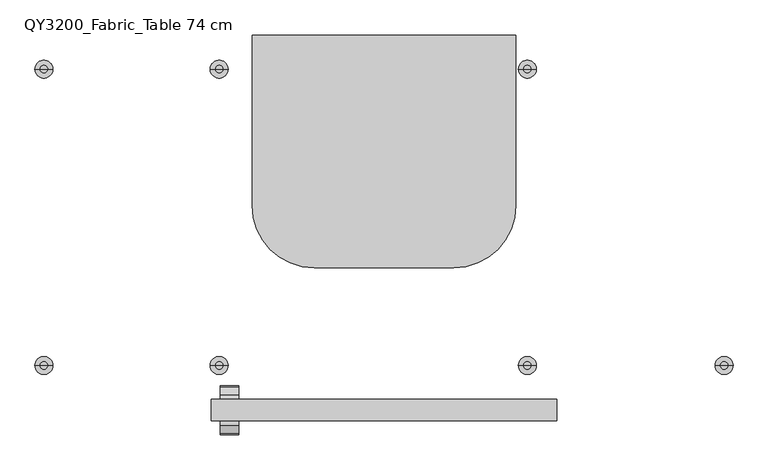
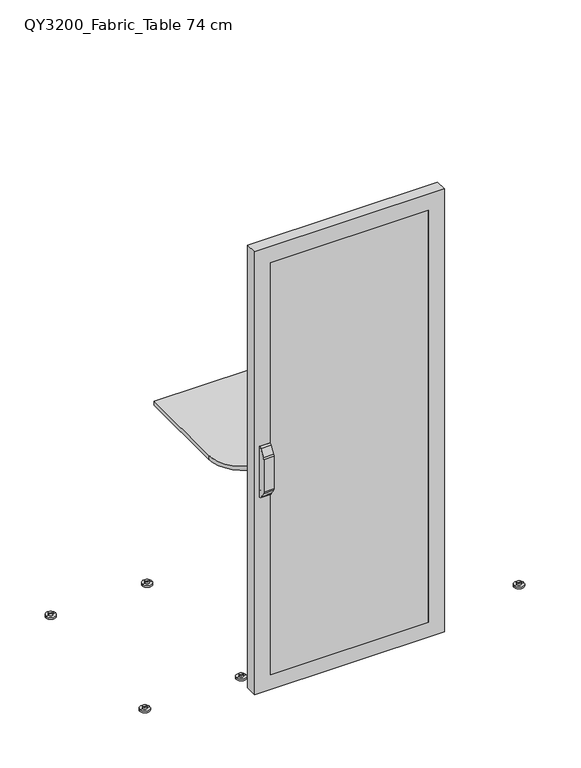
"""IFC4 building model written with IfcOpenShell, lengths in millimetres: furniture geometry, Qyos_200 : QY3200_Fabric_Table 74 cm."""

from ifc_helpers import new_model, si_unit, point, frame, frame_2d, origin, origin_with_axes, place, context, project, spatial, polyline, circle_curve, ellipse_curve, trimmed, segment, composite_curve, outline, extrude, source, transform, mapped, element, save
from ifc_brep_helpers import plane_surface, cylinder_surface, revolved_surface, advanced_brep


def qy3200_fabric_table_74_cm_fe0183bf(model_context):
    return source(origin(), model_context, "Body", "SolidModel", [
        advanced_brep(
        [(-374.0364764, -525.6314016, 980.9779398), (-374.0364764, -525.6314016, 985.9647191), (-374.0364764, -537.9469969, 991.7354618), (-374.0364764, -555.0438473, 1019.0961419), (-374.0364764, -557.6320377, 1028.7554001), (-374.0364764, -557.6320377, 1173.7554001), (-374.0364764, -553.2020658, 1196.5456299), (-374.0364764, -536.4262787, 1221.4167571), (-374.0364764, -525.6314016, 1224.0702851), (-374.0364764, -525.6314016, 1230.9669096), (-374.0364764, -537.162848, 1226.3079029), (-374.0364764, -557.7819627, 1194.5572505), (-374.0364764, -560.5, 1186.1919919), (-374.0364764, -560.5, 1025.2), (-374.0364764, -557.5610872, 1017.1254034), (-374.0364764, -537.1968679, 985.7672556), (-421.9843341, -525.6314016, 1230.9669096), (-421.9843341, -525.6314016, 980.9779398), (-421.9843341, -537.1968679, 985.7672556), (-421.9843341, -557.5610872, 1017.1254034), (-421.9843341, -560.5, 1025.2), (-421.9843341, -560.5, 1186.1919919), (-421.9843341, -557.7819627, 1194.5572505), (-421.9843341, -537.162848, 1226.3079029), (-419.3150587, -525.6314016, 1224.0702851), (-419.3150587, -525.6314016, 985.9647191), (-419.3150587, -537.9469969, 991.7354618), (-419.3150587, -536.4262787, 1221.4167571), (-419.3150587, -553.2020658, 1196.5456299), (-419.3150587, -557.6320377, 1173.7554001), (-419.3150587, -557.6320377, 1028.7554001), (-419.3150587, -555.0438473, 1019.0961419)],
        [
            (0, 1),
            (1, 2, circle_curve(frame((-374.0364764, -525.4805644, 1002.3136249), z_axis=(-1.0, 0.0, 0.0), x_axis=(0.0, -1.0, 0.0)), 16.3496016)),
            (2, 3, circle_curve(frame((-374.0364764, 1120.4570487, 2047.0433119), z_axis=(-1.0, 0.0, 0.0), x_axis=(0.0, -1.0, 0.0)), 1965.7005461)),
            (3, 4, circle_curve(frame((-374.0364764, -540.0644692, 1028.286235), z_axis=(-1.0, 0.0, 0.0), x_axis=(0.0, -1.0, 0.0)), 17.5738323)),
            (4, 5),
            (5, 6, circle_curve(frame((-374.0364764, -496.7942676, 1173.7554001), z_axis=(-1.0, 0.0, 0.0), x_axis=(0.0, -1.0, 0.0)), 60.8377701)),
            (6, 7, circle_curve(frame((-374.0364764, -812.3576761, 1389.4415655), z_axis=(1.0, 0.0, 0.0), x_axis=(0.0, -1.0, 0.0)), 323.0641922)),
            (7, 8, circle_curve(frame((-374.0364764, -525.6314016, 1200.7860796), z_axis=(-1.0, 0.0, 0.0), x_axis=(0.0, -1.0, 0.0)), 23.2842055)),
            (8, 9),
            (9, 10, circle_curve(frame((-374.0364764, -527.4087289, 1218.7657801), z_axis=(1.0, 0.0, 0.0), x_axis=(0.0, -1.0, 0.0)), 12.3299009)),
            (10, 11, circle_curve(frame((-374.0364764, 71.0762231, 808.7424006), z_axis=(1.0, 0.0, 0.0), x_axis=(0.0, -1.0, 0.0)), 737.777552)),
            (11, 12, circle_curve(frame((-374.0364764, -541.7589098, 1184.7268438), z_axis=(1.0, 0.0, 0.0), x_axis=(0.0, -1.0, 0.0)), 18.7982744)),
            (12, 13),
            (13, 14, circle_curve(frame((-374.0364764, -513.525418, 1037.7252129), z_axis=(1.0, 0.0, 0.0), x_axis=(0.0, -1.0, 0.0)), 48.615762)),
            (14, 15, circle_curve(frame((-374.0364764, -160.5394908, 1252.6628295), z_axis=(1.0, 0.0, 0.0), x_axis=(0.0, -1.0, 0.0)), 461.6319174)),
            (15, 0, circle_curve(frame((-374.0364764, -527.6091735, 992.560998), z_axis=(1.0, 0.0, 0.0), x_axis=(0.0, -1.0, 0.0)), 11.7506945)),
            (16, 17),
            (17, 18, circle_curve(frame((-421.9843341, -527.6091735, 992.560998), z_axis=(-1.0, 0.0, 0.0), x_axis=(0.0, -1.0, 0.0)), 11.7506945)),
            (18, 19, circle_curve(frame((-421.9843341, -160.5394908, 1252.6628295), z_axis=(-1.0, 0.0, 0.0), x_axis=(0.0, -1.0, 0.0)), 461.6319174)),
            (19, 20, circle_curve(frame((-421.9843341, -513.525418, 1037.7252129), z_axis=(-1.0, 0.0, 0.0), x_axis=(0.0, -1.0, 0.0)), 48.615762)),
            (20, 21),
            (21, 22, circle_curve(frame((-421.9843341, -541.7589098, 1184.7268438), z_axis=(-1.0, 0.0, 0.0), x_axis=(0.0, -1.0, 0.0)), 18.7982744)),
            (22, 23, circle_curve(frame((-421.9843341, 71.0762231, 808.7424006), z_axis=(-1.0, 0.0, 0.0), x_axis=(0.0, -1.0, 0.0)), 737.777552)),
            (23, 16, circle_curve(frame((-421.9843341, -527.4087289, 1218.7657801), z_axis=(-1.0, 0.0, 0.0), x_axis=(0.0, -1.0, 0.0)), 12.3299009)),
            (16, 9),
            (8, 24),
            (24, 25),
            (25, 1),
            (0, 17),
            (15, 18),
            (14, 19),
            (13, 20),
            (12, 21),
            (11, 22),
            (10, 23),
            (26, 25, circle_curve(frame((-419.3150587, -525.4805644, 1002.3136249), z_axis=(1.0, 0.0, 0.0), x_axis=(0.0, -1.0, 0.0)), 16.3496016)),
            (24, 27, circle_curve(frame((-419.3150587, -525.6314016, 1200.7860796), z_axis=(1.0, 0.0, 0.0), x_axis=(0.0, -1.0, 0.0)), 23.2842055)),
            (27, 28, circle_curve(frame((-419.3150587, -812.3576761, 1389.4415655), z_axis=(-1.0, 0.0, 0.0), x_axis=(0.0, -1.0, 0.0)), 323.0641922)),
            (28, 29, circle_curve(frame((-419.3150587, -496.7942676, 1173.7554001), z_axis=(1.0, 0.0, 0.0), x_axis=(0.0, -1.0, 0.0)), 60.8377701)),
            (29, 30),
            (30, 31, circle_curve(frame((-419.3150587, -540.0644692, 1028.286235), z_axis=(1.0, 0.0, 0.0), x_axis=(0.0, -1.0, 0.0)), 17.5738323)),
            (31, 26, circle_curve(frame((-419.3150587, 1120.4570487, 2047.0433119), z_axis=(1.0, 0.0, 0.0), x_axis=(0.0, -1.0, 0.0)), 1965.7005461)),
            (26, 2),
            (31, 3),
            (30, 4),
            (29, 5),
            (28, 6),
            (27, 7),
        ],
        [
            plane_surface(frame((-374.0364764, -525.6314016, 980.9779398), z_axis=(1.0, 0.0, 0.0), x_axis=(0.0, 0.0, -1.0))),
            plane_surface(frame((-421.9843341, -525.6314016, 980.9779398), z_axis=(-1.0, 0.0, 0.0), x_axis=(0.0, 0.0, 1.0))),
            plane_surface(frame((-374.0364764, -525.6314016, 1230.9669096), z_axis=(0.0, 1.0, 0.0), x_axis=(-1.0, 0.0, 0.0))),
            cylinder_surface(frame((-421.9843341, -527.6091735, 992.560998), z_axis=(1.0, 0.0, 0.0), x_axis=(0.0, -1.0, 0.0)), 11.7506945),
            cylinder_surface(frame((-421.9843341, -160.5394908, 1252.6628295), z_axis=(1.0, 0.0, 0.0), x_axis=(0.0, -1.0, 0.0)), 461.6319174),
            cylinder_surface(frame((-421.9843341, -513.525418, 1037.7252129), z_axis=(1.0, 0.0, 0.0), x_axis=(0.0, -1.0, 0.0)), 48.615762),
            plane_surface(frame((-374.0364764, -560.5, 1025.2), z_axis=(0.0, -1.0, 0.0), x_axis=(-1.0, 0.0, 0.0))),
            cylinder_surface(frame((-421.9843341, -541.7589098, 1184.7268438), z_axis=(1.0, 0.0, 0.0), x_axis=(0.0, -1.0, 0.0)), 18.7982744),
            cylinder_surface(frame((-421.9843341, 71.0762231, 808.7424006), z_axis=(1.0, 0.0, 0.0), x_axis=(0.0, -1.0, 0.0)), 737.777552),
            cylinder_surface(frame((-421.9843341, -527.4087289, 1218.7657801), z_axis=(1.0, 0.0, 0.0), x_axis=(0.0, -1.0, 0.0)), 12.3299009),
            plane_surface(frame((-419.3150587, -511.7185794, 1224.0702851), z_axis=(1.0, 0.0, 0.0), x_axis=(0.0, 0.0, 1.0))),
            revolved_surface(polyline([(-374.0364764, -541.8301660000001, 1002.3136249), (-419.3150587, -541.8301660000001, 1002.3136249)]), (-419.3150587, -525.4805644, 1002.3136249), (1.0, 0.0, 0.0)),
            revolved_surface(polyline([(-374.0364764, -845.2434974, 2047.0433119), (-419.3150587, -845.2434974, 2047.0433119)]), (-419.3150587, 1120.4570487, 2047.0433119), (1.0, 0.0, 0.0)),
            revolved_surface(polyline([(-374.0364764, -557.6383015, 1028.286235), (-419.3150587, -557.6383015, 1028.286235)]), (-419.3150587, -540.0644692, 1028.286235), (1.0, 0.0, 0.0)),
            plane_surface(frame((-366.8304474, -557.6320377, 1028.7554001), z_axis=(0.0, 1.0, 0.0), x_axis=(-1.0, 0.0, 0.0))),
            revolved_surface(polyline([(-374.0364764, -557.6320377, 1173.7554001), (-419.3150587, -557.6320377, 1173.7554001)]), (-419.3150587, -496.7942676, 1173.7554001), (1.0, 0.0, 0.0)),
            cylinder_surface(frame((-419.3150587, -812.3576761, 1389.4415655), z_axis=(-1.0, 0.0, 0.0), x_axis=(0.0, -1.0, 0.0)), 323.0641922),
            revolved_surface(polyline([(-374.0364764, -548.9156071, 1200.7860796), (-419.3150587, -548.9156071, 1200.7860796)]), (-419.3150587, -525.6314016, 1200.7860796), (1.0, 0.0, 0.0)),
        ],
        [
            (0, [[1, 2, 3, 4, 5, 6, 7, 8, 9, 10, 11, 12, 13, 14, 15, 16]]),
            (1, [[17, 18, 19, 20, 21, 22, 23, 24]]),
            (2, [[25, -9, 26, 27, 28, -1, 29, -17]]),
            (3, [[30, -18, -29, -16]]),
            (4, [[31, -19, -30, -15]]),
            (5, [[32, -20, -31, -14]]),
            (6, [[33, -21, -32, -13]]),
            (7, [[34, -22, -33, -12]]),
            (8, [[35, -23, -34, -11]]),
            (9, [[-25, -24, -35, -10]]),
            (10, [[36, -27, 37, 38, 39, 40, 41, 42]]),
            (11, [[43, -2, -28, -36]]),
            (12, [[44, -3, -43, -42]]),
            (13, [[45, -4, -44, -41]]),
            (14, [[46, -5, -45, -40]]),
            (15, [[47, -6, -46, -39]]),
            (16, [[48, -7, -47, -38]]),
            (17, [[-26, -8, -48, -37]]),
        ],
    ),
        extrude(outline(composite_curve([segment(polyline([(1230.9669096, -377.0367526), (1230.9669096, -417.0000396)]), True, "CONTINUOUS"), segment(trimmed(circle_curve(frame_2d((1225.973762, -417.0000396)), 4.9931477), [point((1230.9669096, -417.0000396))], [point((1225.973762, -421.9931872))], False, "CARTESIAN"), True, "CONTINUOUS"), segment(polyline([(1225.973762, -421.9931872), (985.9710874, -421.9931872)]), True, "CONTINUOUS"), segment(trimmed(circle_curve(frame_2d((985.9710874, -417.0000396)), 4.9931477), [point((985.9710874, -421.9931872))], [point((980.9779398, -417.0000396))], False, "CARTESIAN"), True, "CONTINUOUS"), segment(polyline([(980.9779398, -417.0000396), (980.9779398, -377.0345582)]), True, "CONTINUOUS"), segment(trimmed(circle_curve(frame_2d((983.9760215, -377.0345582)), 2.9980817), [point((980.9779398, -377.0345582))], [point((983.9760215, -374.0364764))], False, "CARTESIAN"), True, "CONTINUOUS"), segment(polyline([(983.9760215, -374.0364764), (985.9777208, -374.0364764)]), True, "CONTINUOUS"), segment(trimmed(circle_curve(frame_2d((985.9777208, -376.2870695)), 2.2505931), [point((985.9777208, -374.0364764))], [point((988.1941223, -375.8962581))], False, "CARTESIAN"), True, "CONTINUOUS"), segment(trimmed(circle_curve(frame_2d((1002.686839, -375.0916302)), 14.5150358), [point((988.1941223, -375.8962581))], [point((999.6402401, -389.2833354))], True, "CARTESIAN"), True, "CONTINUOUS"), segment(trimmed(circle_curve(frame_2d((999.3564071, -397.3026122)), 8.0242982), [point((999.6402401, -389.2833354))], [point((1007.3803501, -397.3781043))], False, "CARTESIAN"), True, "CONTINUOUS"), segment(trimmed(circle_curve(frame_2d((984.8527266, -400.9146638)), 22.803532), [point((1007.3803501, -397.3781043))], [point((1007.3098217, -404.8744555))], False, "CARTESIAN"), True, "CONTINUOUS"), segment(trimmed(circle_curve(frame_2d((1018.7344643, -406.8889283)), 11.600886), [point((1007.3098217, -404.8744555))], [point((1018.7344643, -418.4898143))], True, "CARTESIAN"), True, "CONTINUOUS"), segment(polyline([(1018.7344643, -418.4898143), (1193.2103851, -418.4898143)]), True, "CONTINUOUS"), segment(trimmed(circle_curve(frame_2d((1193.2103851, -406.5228547)), 11.9669596), [point((1193.2103851, -418.4898143))], [point((1205.1773447, -406.5228547))], True, "CARTESIAN"), True, "CONTINUOUS"), segment(polyline([(1205.1773447, -406.5228547), (1205.1773447, -397.9909498)]), True, "CONTINUOUS"), segment(trimmed(circle_curve(frame_2d((1213.8757406, -397.9909498)), 8.6983958), [point((1205.1773447, -397.9909498))], [point((1212.36528, -389.4247021))], False, "CARTESIAN"), True, "CONTINUOUS"), segment(trimmed(circle_curve(frame_2d((1209.9037954, -375.4649293)), 14.1751248), [point((1212.36528, -389.4247021))], [point((1224.0702851, -375.959634))], True, "CARTESIAN"), True, "CONTINUOUS"), segment(trimmed(circle_curve(frame_2d((1225.9934427, -375.959634)), 1.9231576), [point((1224.0702851, -375.959634))], [point((1225.9934427, -374.0364764))], False, "CARTESIAN"), True, "CONTINUOUS"), segment(polyline([(1225.9934427, -374.0364764), (1227.9666334, -374.0364764)]), True, "CONTINUOUS"), segment(trimmed(circle_curve(frame_2d((1227.9666334, -377.0367526)), 3.0002762), [point((1227.9666334, -374.0364764))], [point((1230.9669096, -377.0367526))], False, "CARTESIAN"), True, "CONTINUOUS")], self_intersect=False)), frame((0.0, -525.6314016, 0.0), z_axis=(0.0, 1.0, 0.0), x_axis=(0.0, 0.0, 1.0)), (0.0, 0.0, 1.0), 0.6314016),
        advanced_brep(
        [(-374.0364764, -469.3642803, 980.9779398), (-374.0364764, -457.798814, 985.7672556), (-374.0364764, -437.4345947, 1017.1254034), (-374.0364764, -434.4956819, 1025.2), (-374.0364764, -434.4956819, 1186.1919919), (-374.0364764, -437.2137192, 1194.5572505), (-374.0364764, -457.8328339, 1226.3079029), (-374.0364764, -469.3642803, 1230.9669096), (-374.0364764, -469.3642803, 1224.0702851), (-374.0364764, -458.5694032, 1221.4167571), (-374.0364764, -441.7936161, 1196.5456299), (-374.0364764, -437.3636441, 1173.7554001), (-374.0364764, -437.3636441, 1028.7554001), (-374.0364764, -439.9518346, 1019.0961419), (-374.0364764, -457.048685, 991.7354618), (-374.0364764, -469.3642803, 985.9647191), (-421.9843341, -469.3642803, 1230.9669096), (-421.9843341, -457.8328339, 1226.3079029), (-421.9843341, -437.2137192, 1194.5572505), (-421.9843341, -434.4956819, 1186.1919919), (-421.9843341, -434.4956819, 1025.2), (-421.9843341, -437.4345947, 1017.1254034), (-421.9843341, -457.798814, 985.7672556), (-421.9843341, -469.3642803, 980.9779398), (-419.3150587, -469.3642803, 985.9647191), (-419.3150587, -469.3642803, 1224.0702851), (-419.3150587, -457.048685, 991.7354618), (-419.3150587, -439.9518346, 1019.0961419), (-419.3150587, -437.3636441, 1028.7554001), (-419.3150587, -437.3636441, 1173.7554001), (-419.3150587, -441.7936161, 1196.5456299), (-419.3150587, -458.5694032, 1221.4167571)],
        [
            (0, 1, circle_curve(frame((-374.0364764, -467.3865084, 992.560998), z_axis=(1.0, 0.0, 0.0), x_axis=(0.0, 1.0, 0.0)), 11.7506945)),
            (1, 2, circle_curve(frame((-374.0364764, -834.4561911, 1252.6628295), z_axis=(1.0, 0.0, 0.0), x_axis=(0.0, 1.0, 0.0)), 461.6319174)),
            (2, 3, circle_curve(frame((-374.0364764, -481.4702639, 1037.7252129), z_axis=(1.0, 0.0, 0.0), x_axis=(0.0, 1.0, 0.0)), 48.615762)),
            (3, 4),
            (4, 5, circle_curve(frame((-374.0364764, -453.236772, 1184.7268438), z_axis=(1.0, 0.0, 0.0), x_axis=(0.0, 1.0, 0.0)), 18.7982744)),
            (5, 6, circle_curve(frame((-374.0364764, -1066.071905, 808.7424006), z_axis=(1.0, 0.0, 0.0), x_axis=(0.0, 1.0, 0.0)), 737.777552)),
            (6, 7, circle_curve(frame((-374.0364764, -467.586953, 1218.7657801), z_axis=(1.0, 0.0, 0.0), x_axis=(0.0, 1.0, 0.0)), 12.3299009)),
            (7, 8),
            (8, 9, circle_curve(frame((-374.0364764, -469.3642803, 1200.7860796), z_axis=(-1.0, 0.0, 0.0), x_axis=(0.0, 1.0, 0.0)), 23.2842055)),
            (9, 10, circle_curve(frame((-374.0364764, -182.6380058, 1389.4415655), z_axis=(1.0, 0.0, 0.0), x_axis=(0.0, 1.0, 0.0)), 323.0641922)),
            (10, 11, circle_curve(frame((-374.0364764, -498.2014142, 1173.7554001), z_axis=(-1.0, 0.0, 0.0), x_axis=(0.0, 1.0, 0.0)), 60.8377701)),
            (11, 12),
            (12, 13, circle_curve(frame((-374.0364764, -454.9312127, 1028.286235), z_axis=(-1.0, 0.0, 0.0), x_axis=(0.0, 1.0, 0.0)), 17.5738323)),
            (13, 14, circle_curve(frame((-374.0364764, -2115.4527306, 2047.0433119), z_axis=(-1.0, 0.0, 0.0), x_axis=(0.0, 1.0, 0.0)), 1965.7005461)),
            (14, 15, circle_curve(frame((-374.0364764, -469.5151175, 1002.3136249), z_axis=(-1.0, 0.0, 0.0), x_axis=(0.0, 1.0, 0.0)), 16.3496016)),
            (15, 0),
            (16, 17, circle_curve(frame((-421.9843341, -467.586953, 1218.7657801), z_axis=(-1.0, 0.0, 0.0), x_axis=(0.0, 1.0, 0.0)), 12.3299009)),
            (17, 18, circle_curve(frame((-421.9843341, -1066.071905, 808.7424006), z_axis=(-1.0, 0.0, 0.0), x_axis=(0.0, 1.0, 0.0)), 737.777552)),
            (18, 19, circle_curve(frame((-421.9843341, -453.236772, 1184.7268438), z_axis=(-1.0, 0.0, 0.0), x_axis=(0.0, 1.0, 0.0)), 18.7982744)),
            (19, 20),
            (20, 21, circle_curve(frame((-421.9843341, -481.4702639, 1037.7252129), z_axis=(-1.0, 0.0, 0.0), x_axis=(0.0, 1.0, 0.0)), 48.615762)),
            (21, 22, circle_curve(frame((-421.9843341, -834.4561911, 1252.6628295), z_axis=(-1.0, 0.0, 0.0), x_axis=(0.0, 1.0, 0.0)), 461.6319174)),
            (22, 23, circle_curve(frame((-421.9843341, -467.3865084, 992.560998), z_axis=(-1.0, 0.0, 0.0), x_axis=(0.0, 1.0, 0.0)), 11.7506945)),
            (23, 16),
            (23, 0),
            (15, 24),
            (24, 25),
            (25, 8),
            (7, 16),
            (22, 1),
            (21, 2),
            (20, 3),
            (19, 4),
            (18, 5),
            (17, 6),
            (26, 27, circle_curve(frame((-419.3150587, -2115.4527306, 2047.0433119), z_axis=(1.0, 0.0, 0.0), x_axis=(0.0, 1.0, 0.0)), 1965.7005461)),
            (27, 28, circle_curve(frame((-419.3150587, -454.9312127, 1028.286235), z_axis=(1.0, 0.0, 0.0), x_axis=(0.0, 1.0, 0.0)), 17.5738323)),
            (28, 29),
            (29, 30, circle_curve(frame((-419.3150587, -498.2014142, 1173.7554001), z_axis=(1.0, 0.0, 0.0), x_axis=(0.0, 1.0, 0.0)), 60.8377701)),
            (30, 31, circle_curve(frame((-419.3150587, -182.6380058, 1389.4415655), z_axis=(-1.0, 0.0, 0.0), x_axis=(0.0, 1.0, 0.0)), 323.0641922)),
            (31, 25, circle_curve(frame((-419.3150587, -469.3642803, 1200.7860796), z_axis=(1.0, 0.0, 0.0), x_axis=(0.0, 1.0, 0.0)), 23.2842055)),
            (24, 26, circle_curve(frame((-419.3150587, -469.5151175, 1002.3136249), z_axis=(1.0, 0.0, 0.0), x_axis=(0.0, 1.0, 0.0)), 16.3496016)),
            (14, 26),
            (13, 27),
            (12, 28),
            (11, 29),
            (10, 30),
            (9, 31),
        ],
        [
            plane_surface(frame((-374.0364764, -469.3642803, 980.9779398), z_axis=(1.0, 0.0, 0.0), x_axis=(0.0, 0.0, -1.0))),
            plane_surface(frame((-421.9843341, -469.3642803, 980.9779398), z_axis=(-1.0, 0.0, 0.0), x_axis=(0.0, 0.0, 1.0))),
            plane_surface(frame((-374.0364764, -469.3642803, 1230.9669096), z_axis=(0.0, -1.0, 0.0), x_axis=(-1.0, 0.0, 0.0))),
            cylinder_surface(frame((-421.9843341, -467.3865084, 992.560998), z_axis=(1.0, 0.0, 0.0), x_axis=(0.0, 1.0, 0.0)), 11.7506945),
            cylinder_surface(frame((-421.9843341, -834.4561911, 1252.6628295), z_axis=(1.0, 0.0, 0.0), x_axis=(0.0, 1.0, 0.0)), 461.6319174),
            cylinder_surface(frame((-421.9843341, -481.4702639, 1037.7252129), z_axis=(1.0, 0.0, 0.0), x_axis=(0.0, 1.0, 0.0)), 48.615762),
            plane_surface(frame((-374.0364764, -434.4956819, 1025.2), z_axis=(0.0, 1.0, 0.0), x_axis=(-1.0, 0.0, 0.0))),
            cylinder_surface(frame((-421.9843341, -453.236772, 1184.7268438), z_axis=(1.0, 0.0, 0.0), x_axis=(0.0, 1.0, 0.0)), 18.7982744),
            cylinder_surface(frame((-421.9843341, -1066.071905, 808.7424006), z_axis=(1.0, 0.0, 0.0), x_axis=(0.0, 1.0, 0.0)), 737.777552),
            cylinder_surface(frame((-421.9843341, -467.586953, 1218.7657801), z_axis=(1.0, 0.0, 0.0), x_axis=(0.0, 1.0, 0.0)), 12.3299009),
            plane_surface(frame((-419.3150587, -483.2771024, 1224.0702851), z_axis=(1.0, 0.0, 0.0), x_axis=(0.0, 0.0, 1.0))),
            revolved_surface(polyline([(-374.0364764, -453.16551589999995, 1002.3136249), (-419.3150587, -453.16551589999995, 1002.3136249)]), (-419.3150587, -469.5151175, 1002.3136249), (1.0, 0.0, 0.0)),
            revolved_surface(polyline([(-374.0364764, -149.75218449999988, 2047.0433119), (-419.3150587, -149.75218449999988, 2047.0433119)]), (-419.3150587, -2115.4527306, 2047.0433119), (1.0, 0.0, 0.0)),
            revolved_surface(polyline([(-374.0364764, -437.3573804, 1028.286235), (-419.3150587, -437.3573804, 1028.286235)]), (-419.3150587, -454.9312127, 1028.286235), (1.0, 0.0, 0.0)),
            plane_surface(frame((-366.8304474, -437.3636441, 1028.7554001), z_axis=(0.0, -1.0, 0.0), x_axis=(-1.0, 0.0, 0.0))),
            revolved_surface(polyline([(-374.0364764, -437.3636441, 1173.7554001), (-419.3150587, -437.3636441, 1173.7554001)]), (-419.3150587, -498.2014142, 1173.7554001), (1.0, 0.0, 0.0)),
            cylinder_surface(frame((-419.3150587, -182.6380058, 1389.4415655), z_axis=(-1.0, 0.0, 0.0), x_axis=(0.0, 1.0, 0.0)), 323.0641922),
            revolved_surface(polyline([(-374.0364764, -446.08007480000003, 1200.7860796), (-419.3150587, -446.08007480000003, 1200.7860796)]), (-419.3150587, -469.3642803, 1200.7860796), (1.0, 0.0, 0.0)),
        ],
        [
            (0, [[1, 2, 3, 4, 5, 6, 7, 8, 9, 10, 11, 12, 13, 14, 15, 16]]),
            (1, [[17, 18, 19, 20, 21, 22, 23, 24]]),
            (2, [[-24, 25, -16, 26, 27, 28, -8, 29]]),
            (3, [[-1, -25, -23, 30]]),
            (4, [[-2, -30, -22, 31]]),
            (5, [[-3, -31, -21, 32]]),
            (6, [[-4, -32, -20, 33]]),
            (7, [[-5, -33, -19, 34]]),
            (8, [[-6, -34, -18, 35]]),
            (9, [[-7, -35, -17, -29]]),
            (10, [[36, 37, 38, 39, 40, 41, -27, 42]]),
            (11, [[-42, -26, -15, 43]]),
            (12, [[-36, -43, -14, 44]]),
            (13, [[-37, -44, -13, 45]]),
            (14, [[-38, -45, -12, 46]]),
            (15, [[-39, -46, -11, 47]]),
            (16, [[-40, -47, -10, 48]]),
            (17, [[-41, -48, -9, -28]]),
        ],
    ),
        extrude(outline(composite_curve([segment(polyline([(1230.9669096, -377.0367526), (1230.9669096, -417.0000396)]), True, "CONTINUOUS"), segment(trimmed(circle_curve(frame_2d((1225.973762, -417.0000396)), 4.9931477), [point((1230.9669096, -417.0000396))], [point((1225.973762, -421.9931872))], False, "CARTESIAN"), True, "CONTINUOUS"), segment(polyline([(1225.973762, -421.9931872), (985.9710874, -421.9931872)]), True, "CONTINUOUS"), segment(trimmed(circle_curve(frame_2d((985.9710874, -417.0000396)), 4.9931477), [point((985.9710874, -421.9931872))], [point((980.9779398, -417.0000396))], False, "CARTESIAN"), True, "CONTINUOUS"), segment(polyline([(980.9779398, -417.0000396), (980.9779398, -377.0345582)]), True, "CONTINUOUS"), segment(trimmed(circle_curve(frame_2d((983.9760215, -377.0345582)), 2.9980817), [point((980.9779398, -377.0345582))], [point((983.9760215, -374.0364764))], False, "CARTESIAN"), True, "CONTINUOUS"), segment(polyline([(983.9760215, -374.0364764), (985.9777208, -374.0364764)]), True, "CONTINUOUS"), segment(trimmed(circle_curve(frame_2d((985.9777208, -376.2870695)), 2.2505931), [point((985.9777208, -374.0364764))], [point((988.1941223, -375.8962581))], False, "CARTESIAN"), True, "CONTINUOUS"), segment(trimmed(circle_curve(frame_2d((1002.686839, -375.0916302)), 14.5150358), [point((988.1941223, -375.8962581))], [point((999.6402401, -389.2833354))], True, "CARTESIAN"), True, "CONTINUOUS"), segment(trimmed(circle_curve(frame_2d((999.3564071, -397.3026122)), 8.0242982), [point((999.6402401, -389.2833354))], [point((1007.3803501, -397.3781043))], False, "CARTESIAN"), True, "CONTINUOUS"), segment(trimmed(circle_curve(frame_2d((984.8527266, -400.9146638)), 22.803532), [point((1007.3803501, -397.3781043))], [point((1007.3098217, -404.8744555))], False, "CARTESIAN"), True, "CONTINUOUS"), segment(trimmed(circle_curve(frame_2d((1018.7344643, -406.8889283)), 11.600886), [point((1007.3098217, -404.8744555))], [point((1018.7344643, -418.4898143))], True, "CARTESIAN"), True, "CONTINUOUS"), segment(polyline([(1018.7344643, -418.4898143), (1193.2103851, -418.4898143)]), True, "CONTINUOUS"), segment(trimmed(circle_curve(frame_2d((1193.2103851, -406.5228547)), 11.9669596), [point((1193.2103851, -418.4898143))], [point((1205.1773447, -406.5228547))], True, "CARTESIAN"), True, "CONTINUOUS"), segment(polyline([(1205.1773447, -406.5228547), (1205.1773447, -397.9909498)]), True, "CONTINUOUS"), segment(trimmed(circle_curve(frame_2d((1213.8757406, -397.9909498)), 8.6983958), [point((1205.1773447, -397.9909498))], [point((1212.36528, -389.4247021))], False, "CARTESIAN"), True, "CONTINUOUS"), segment(trimmed(circle_curve(frame_2d((1209.9037954, -375.4649293)), 14.1751248), [point((1212.36528, -389.4247021))], [point((1224.0702851, -375.959634))], True, "CARTESIAN"), True, "CONTINUOUS"), segment(trimmed(circle_curve(frame_2d((1225.9934427, -375.959634)), 1.9231576), [point((1224.0702851, -375.959634))], [point((1225.9934427, -374.0364764))], False, "CARTESIAN"), True, "CONTINUOUS"), segment(polyline([(1225.9934427, -374.0364764), (1227.9666334, -374.0364764)]), True, "CONTINUOUS"), segment(trimmed(circle_curve(frame_2d((1227.9666334, -377.0367526)), 3.0002762), [point((1227.9666334, -374.0364764))], [point((1230.9669096, -377.0367526))], False, "CARTESIAN"), True, "CONTINUOUS")], self_intersect=False)), frame((0.0, -469.9956819, 0.0), z_axis=(0.0, 1.0, 0.0), x_axis=(0.0, 0.0, 1.0)), (0.0, 0.0, 1.0), 0.6314016),
        extrude(outline(polyline([(369.5486306, -525.0), (-369.4513694, -525.0), (-369.4513694, -520.0), (369.5486306, -520.0), (369.5486306, -525.0)])), frame((0.0, 0.0, 82.0), z_axis=(0.0, 0.0, 1.0), x_axis=(1.0, 0.0, 0.0)), (0.0, 0.0, 1.0), 2040.1),
        extrude(outline(polyline([(10.0, -444.9513694), (10.0, 445.0486306), (2202.1, 445.0486306), (2202.1, -444.9513694), (10.0, -444.9513694)]), holes=[polyline([(82.0, 369.5486306), (82.0, -369.4513694), (2122.1, -369.4513694), (2122.1, 369.5486306), (82.0, 369.5486306)])]), frame((0.0, -525.0, 0.0), z_axis=(0.0, 1.0, 0.0), x_axis=(0.0, 0.0, 1.0)), (0.0, 0.0, 1.0), 55.0043181),
        advanced_brep(
        [(-18.7621631, 170.0, 82.0), (18.7621631, 170.0, 82.0), (0.0, 170.0, 82.0), (-22.480604, 170.0, 85.7184409), (22.480604, 170.0, 85.7184409), (-22.480604, 170.0, 803.0), (22.480604, 170.0, 803.0), (0.0, 170.0, 803.0)],
        [
            (0, 1, circle_curve(frame((0.0, 170.0, 82.0), z_axis=(0.0, 0.0, -1.0), x_axis=(1.0, 0.0, 0.0)), 18.7621631)),
            (1, 2),
            (2, 0),
            (1, 0, circle_curve(frame((0.0, 170.0, 82.0), z_axis=(0.0, 0.0, -1.0), x_axis=(1.0, 0.0, 0.0)), 18.7621631)),
            (3, 4, circle_curve(frame((0.0, 170.0, 85.7184409), z_axis=(0.0, 0.0, -1.0), x_axis=(1.0, 0.0, 0.0)), 22.480604)),
            (4, 1, circle_curve(frame((16.4330916, 170.0, 88.0475124), z_axis=(0.0, 1.0, 0.0), x_axis=(1.0, 0.0, 0.0)), 6.4805077)),
            (0, 3, circle_curve(frame((-16.4330916, 170.0, 88.0475124), z_axis=(0.0, 1.0, 0.0), x_axis=(-1.0, 0.0, 0.0)), 6.4805077)),
            (4, 3, circle_curve(frame((0.0, 170.0, 85.7184409), z_axis=(0.0, 0.0, -1.0), x_axis=(1.0, 0.0, 0.0)), 22.480604)),
            (5, 6, circle_curve(frame((0.0, 170.0, 803.0), z_axis=(0.0, 0.0, -1.0), x_axis=(1.0, 0.0, 0.0)), 22.480604)),
            (6, 4),
            (3, 5),
            (6, 5, circle_curve(frame((0.0, 170.0, 803.0), z_axis=(0.0, 0.0, -1.0), x_axis=(1.0, 0.0, 0.0)), 22.480604)),
            (7, 6),
            (5, 7),
        ],
        [
            plane_surface(frame((0.0, 170.0, 82.0), z_axis=(0.0, 0.0, -1.0), x_axis=(1.0, 0.0, 0.0))),
            revolved_surface(trimmed(ellipse_curve(frame((16.4330916, 170.0, 88.0475124), z_axis=(0.0, -1.0, 0.0), x_axis=(1.0, 0.0, 0.0)), 6.4805077, 6.4805077), [point((18.7621631, 170.0, 82.0))], [point((22.480604, 170.0, 85.7184409))], True, "CARTESIAN"), (0.0, 170.0, 1997.4144888), (0.0, 0.0, 1.0)),
            cylinder_surface(frame((0.0, 170.0, 1997.4144888), z_axis=(0.0, 0.0, 1.0), x_axis=(1.0, 0.0, 0.0)), 22.480604),
            plane_surface(frame((0.0, 170.0, 803.0), z_axis=(0.0, 0.0, 1.0), x_axis=(1.0, 0.0, 0.0))),
        ],
        [
            (0, [[1, 2, 3]]),
            (0, [[4, -3, -2]]),
            (1, [[5, 6, -1, 7]]),
            (1, [[8, -7, -4, -6]]),
            (2, [[9, 10, -5, 11]]),
            (2, [[12, -11, -8, -10]]),
            (3, [[13, -9, 14]]),
            (3, [[-14, -12, -13]]),
        ],
    ),
        extrude(outline(composite_curve([segment(polyline([(340.0, 470.0), (340.0, 30.0)]), True, "CONTINUOUS"), segment(trimmed(circle_curve(frame_2d((180.0, 30.0)), 160.0), [point((340.0, 30.0))], [point((180.0, -130.0))], False, "CARTESIAN"), True, "CONTINUOUS"), segment(polyline([(180.0, -130.0), (-180.0, -130.0)]), True, "CONTINUOUS"), segment(trimmed(circle_curve(frame_2d((-180.0, 30.0)), 160.0), [point((-180.0, -130.0))], [point((-340.0, 30.0))], False, "CARTESIAN"), True, "CONTINUOUS"), segment(polyline([(-340.0, 30.0), (-340.0, 470.0), (340.0, 470.0)]), True, "CONTINUOUS")], self_intersect=False)), frame((0.0, 0.0, 803.0), z_axis=(0.0, 0.0, 1.0), x_axis=(1.0, 0.0, 0.0)), (0.0, 0.0, 1.0), 19.0),
        advanced_brep(
        [(346.4071662, -382.0, 0.0), (392.690095, -382.0, 0.0), (369.5486306, -382.0, 0.0), (346.4071662, -382.0, 7.0), (392.690095, -382.0, 7.0), (359.9101752, -382.0, 7.0), (379.187086, -382.0, 7.0), (359.9101752, -382.0, 17.0), (379.187086, -382.0, 17.0), (369.5486306, -382.0, 17.0)],
        [
            (0, 1, circle_curve(frame((369.5486306, -382.0, 0.0), z_axis=(0.0, 0.0, -1.0), x_axis=(1.0, 0.0, 0.0)), 23.1414644)),
            (1, 2),
            (2, 0),
            (1, 0, circle_curve(frame((369.5486306, -382.0, 0.0), z_axis=(0.0, 0.0, -1.0), x_axis=(1.0, 0.0, 0.0)), 23.1414644)),
            (3, 4, circle_curve(frame((369.5486306, -382.0, 7.0), z_axis=(0.0, 0.0, -1.0), x_axis=(1.0, 0.0, 0.0)), 23.1414644)),
            (4, 1),
            (0, 3),
            (4, 3, circle_curve(frame((369.5486306, -382.0, 7.0), z_axis=(0.0, 0.0, -1.0), x_axis=(1.0, 0.0, 0.0)), 23.1414644)),
            (5, 6, circle_curve(frame((369.5486306, -382.0, 7.0), z_axis=(0.0, 0.0, -1.0), x_axis=(1.0, 0.0, 0.0)), 9.6384554)),
            (6, 4),
            (3, 5),
            (6, 5, circle_curve(frame((369.5486306, -382.0, 7.0), z_axis=(0.0, 0.0, -1.0), x_axis=(1.0, 0.0, 0.0)), 9.6384554)),
            (7, 8, circle_curve(frame((369.5486306, -382.0, 17.0), z_axis=(0.0, 0.0, -1.0), x_axis=(1.0, 0.0, 0.0)), 9.6384554)),
            (8, 6),
            (5, 7),
            (8, 7, circle_curve(frame((369.5486306, -382.0, 17.0), z_axis=(0.0, 0.0, -1.0), x_axis=(1.0, 0.0, 0.0)), 9.6384554)),
            (9, 8),
            (7, 9),
        ],
        [
            plane_surface(frame((369.5486306, -382.0, 0.0), z_axis=(0.0, 0.0, -1.0), x_axis=(1.0, 0.0, 0.0))),
            cylinder_surface(frame((369.5486306, -382.0, 1997.4144888), z_axis=(0.0, 0.0, 1.0), x_axis=(1.0, 0.0, 0.0)), 23.1414644),
            plane_surface(frame((369.5486306, -382.0, 7.0), z_axis=(0.0, 0.0, 1.0), x_axis=(1.0, 0.0, 0.0))),
            cylinder_surface(frame((369.5486306, -382.0, 1997.4144888), z_axis=(0.0, 0.0, 1.0), x_axis=(1.0, 0.0, 0.0)), 9.6384554),
            plane_surface(frame((369.5486306, -382.0, 17.0), z_axis=(0.0, 0.0, 1.0), x_axis=(1.0, 0.0, 0.0))),
        ],
        [
            (0, [[1, 2, 3]]),
            (0, [[4, -3, -2]]),
            (1, [[5, 6, -1, 7]]),
            (1, [[8, -7, -4, -6]]),
            (2, [[9, 10, -5, 11]]),
            (2, [[12, -11, -8, -10]]),
            (3, [[13, 14, -9, 15]]),
            (3, [[16, -15, -12, -14]]),
            (4, [[17, -13, 18]]),
            (4, [[-18, -16, -17]]),
        ],
    ),
        extrude(outline(composite_curve([segment(trimmed(circle_curve(frame_2d((369.5486306, -382.0)), 23.1414644), [point((346.4071662, -382.0))], [point((392.690095, -382.0))], False, "CARTESIAN"), True, "CONTINUOUS"), segment(trimmed(circle_curve(frame_2d((369.5486306, -382.0)), 23.1414644), [point((392.690095, -382.0))], [point((346.4071662, -382.0))], False, "CARTESIAN"), True, "CONTINUOUS")], self_intersect=False)), origin_with_axes(), (0.0, 0.0, 1.0), 7.0),
        advanced_brep(
        [(346.4071662, 382.0, 0.0), (392.690095, 382.0, 0.0), (369.5486306, 382.0, 0.0), (346.4071662, 382.0, 7.0), (392.690095, 382.0, 7.0), (359.9101752, 382.0, 7.0), (379.187086, 382.0, 7.0), (359.9101752, 382.0, 17.0), (379.187086, 382.0, 17.0), (369.5486306, 382.0, 17.0)],
        [
            (0, 1, circle_curve(frame((369.5486306, 382.0, 0.0), z_axis=(0.0, 0.0, -1.0), x_axis=(1.0, 0.0, 0.0)), 23.1414644)),
            (1, 2),
            (2, 0),
            (1, 0, circle_curve(frame((369.5486306, 382.0, 0.0), z_axis=(0.0, 0.0, -1.0), x_axis=(1.0, 0.0, 0.0)), 23.1414644)),
            (3, 4, circle_curve(frame((369.5486306, 382.0, 7.0), z_axis=(0.0, 0.0, -1.0), x_axis=(1.0, 0.0, 0.0)), 23.1414644)),
            (4, 1),
            (0, 3),
            (4, 3, circle_curve(frame((369.5486306, 382.0, 7.0), z_axis=(0.0, 0.0, -1.0), x_axis=(1.0, 0.0, 0.0)), 23.1414644)),
            (5, 6, circle_curve(frame((369.5486306, 382.0, 7.0), z_axis=(0.0, 0.0, -1.0), x_axis=(1.0, 0.0, 0.0)), 9.6384554)),
            (6, 4),
            (3, 5),
            (6, 5, circle_curve(frame((369.5486306, 382.0, 7.0), z_axis=(0.0, 0.0, -1.0), x_axis=(1.0, 0.0, 0.0)), 9.6384554)),
            (7, 8, circle_curve(frame((369.5486306, 382.0, 17.0), z_axis=(0.0, 0.0, -1.0), x_axis=(1.0, 0.0, 0.0)), 9.6384554)),
            (8, 6),
            (5, 7),
            (8, 7, circle_curve(frame((369.5486306, 382.0, 17.0), z_axis=(0.0, 0.0, -1.0), x_axis=(1.0, 0.0, 0.0)), 9.6384554)),
            (9, 8),
            (7, 9),
        ],
        [
            plane_surface(frame((369.5486306, 382.0, 0.0), z_axis=(0.0, 0.0, -1.0), x_axis=(1.0, 0.0, 0.0))),
            cylinder_surface(frame((369.5486306, 382.0, 1997.4144888), z_axis=(0.0, 0.0, 1.0), x_axis=(1.0, 0.0, 0.0)), 23.1414644),
            plane_surface(frame((369.5486306, 382.0, 7.0), z_axis=(0.0, 0.0, 1.0), x_axis=(1.0, 0.0, 0.0))),
            cylinder_surface(frame((369.5486306, 382.0, 1997.4144888), z_axis=(0.0, 0.0, 1.0), x_axis=(1.0, 0.0, 0.0)), 9.6384554),
            plane_surface(frame((369.5486306, 382.0, 17.0), z_axis=(0.0, 0.0, 1.0), x_axis=(1.0, 0.0, 0.0))),
        ],
        [
            (0, [[1, 2, 3]]),
            (0, [[4, -3, -2]]),
            (1, [[5, 6, -1, 7]]),
            (1, [[8, -7, -4, -6]]),
            (2, [[9, 10, -5, 11]]),
            (2, [[12, -11, -8, -10]]),
            (3, [[13, 14, -9, 15]]),
            (3, [[16, -15, -12, -14]]),
            (4, [[17, -13, 18]]),
            (4, [[-18, -16, -17]]),
        ],
    ),
        extrude(outline(composite_curve([segment(trimmed(circle_curve(frame_2d((369.5486306, 382.0)), 23.1414644), [point((346.4071662, 382.0))], [point((392.690095, 382.0))], False, "CARTESIAN"), True, "CONTINUOUS"), segment(trimmed(circle_curve(frame_2d((369.5486306, 382.0)), 23.1414644), [point((392.690095, 382.0))], [point((346.4071662, 382.0))], False, "CARTESIAN"), True, "CONTINUOUS")], self_intersect=False)), origin_with_axes(), (0.0, 0.0, 1.0), 7.0),
        advanced_brep(
        [(853.8585356, -382.0, 0.0), (900.1414644, -382.0, 0.0), (877.0, -382.0, 0.0), (853.8585356, -382.0, 7.0), (900.1414644, -382.0, 7.0), (867.3615446, -382.0, 7.0), (886.6384554, -382.0, 7.0), (867.3615446, -382.0, 17.0), (886.6384554, -382.0, 17.0), (877.0, -382.0, 17.0)],
        [
            (0, 1, circle_curve(frame((877.0, -382.0, 0.0), z_axis=(0.0, 0.0, -1.0), x_axis=(1.0, 0.0, 0.0)), 23.1414644)),
            (1, 2),
            (2, 0),
            (1, 0, circle_curve(frame((877.0, -382.0, 0.0), z_axis=(0.0, 0.0, -1.0), x_axis=(1.0, 0.0, 0.0)), 23.1414644)),
            (3, 4, circle_curve(frame((877.0, -382.0, 7.0), z_axis=(0.0, 0.0, -1.0), x_axis=(1.0, 0.0, 0.0)), 23.1414644)),
            (4, 1),
            (0, 3),
            (4, 3, circle_curve(frame((877.0, -382.0, 7.0), z_axis=(0.0, 0.0, -1.0), x_axis=(1.0, 0.0, 0.0)), 23.1414644)),
            (5, 6, circle_curve(frame((877.0, -382.0, 7.0), z_axis=(0.0, 0.0, -1.0), x_axis=(1.0, 0.0, 0.0)), 9.6384554)),
            (6, 4),
            (3, 5),
            (6, 5, circle_curve(frame((877.0, -382.0, 7.0), z_axis=(0.0, 0.0, -1.0), x_axis=(1.0, 0.0, 0.0)), 9.6384554)),
            (7, 8, circle_curve(frame((877.0, -382.0, 17.0), z_axis=(0.0, 0.0, -1.0), x_axis=(1.0, 0.0, 0.0)), 9.6384554)),
            (8, 6),
            (5, 7),
            (8, 7, circle_curve(frame((877.0, -382.0, 17.0), z_axis=(0.0, 0.0, -1.0), x_axis=(1.0, 0.0, 0.0)), 9.6384554)),
            (9, 8),
            (7, 9),
        ],
        [
            plane_surface(frame((877.0, -382.0, 0.0), z_axis=(0.0, 0.0, -1.0), x_axis=(1.0, 0.0, 0.0))),
            cylinder_surface(frame((877.0, -382.0, 1997.4144888), z_axis=(0.0, 0.0, 1.0), x_axis=(1.0, 0.0, 0.0)), 23.1414644),
            plane_surface(frame((877.0, -382.0, 7.0), z_axis=(0.0, 0.0, 1.0), x_axis=(1.0, 0.0, 0.0))),
            cylinder_surface(frame((877.0, -382.0, 1997.4144888), z_axis=(0.0, 0.0, 1.0), x_axis=(1.0, 0.0, 0.0)), 9.6384554),
            plane_surface(frame((877.0, -382.0, 17.0), z_axis=(0.0, 0.0, 1.0), x_axis=(1.0, 0.0, 0.0))),
        ],
        [
            (0, [[1, 2, 3]]),
            (0, [[4, -3, -2]]),
            (1, [[5, 6, -1, 7]]),
            (1, [[8, -7, -4, -6]]),
            (2, [[9, 10, -5, 11]]),
            (2, [[12, -11, -8, -10]]),
            (3, [[13, 14, -9, 15]]),
            (3, [[16, -15, -12, -14]]),
            (4, [[17, -13, 18]]),
            (4, [[-18, -16, -17]]),
        ],
    ),
        extrude(outline(composite_curve([segment(trimmed(circle_curve(frame_2d((877.0, -382.0)), 23.1414644), [point((853.8585356, -382.0))], [point((900.1414644, -382.0))], False, "CARTESIAN"), True, "CONTINUOUS"), segment(trimmed(circle_curve(frame_2d((877.0, -382.0)), 23.1414644), [point((900.1414644, -382.0))], [point((853.8585356, -382.0))], False, "CARTESIAN"), True, "CONTINUOUS")], self_intersect=False)), origin_with_axes(), (0.0, 0.0, 1.0), 7.0),
        advanced_brep(
        [(-448.1414644, -382.0, 0.0), (-401.8585356, -382.0, 0.0), (-425.0, -382.0, 0.0), (-448.1414644, -382.0, 7.0), (-401.8585356, -382.0, 7.0), (-434.6384554, -382.0, 7.0), (-415.3615446, -382.0, 7.0), (-434.6384554, -382.0, 17.0), (-415.3615446, -382.0, 17.0), (-425.0, -382.0, 17.0)],
        [
            (0, 1, circle_curve(frame((-425.0, -382.0, 0.0), z_axis=(0.0, 0.0, -1.0), x_axis=(1.0, 0.0, 0.0)), 23.1414644)),
            (1, 2),
            (2, 0),
            (1, 0, circle_curve(frame((-425.0, -382.0, 0.0), z_axis=(0.0, 0.0, -1.0), x_axis=(1.0, 0.0, 0.0)), 23.1414644)),
            (3, 4, circle_curve(frame((-425.0, -382.0, 7.0), z_axis=(0.0, 0.0, -1.0), x_axis=(1.0, 0.0, 0.0)), 23.1414644)),
            (4, 1),
            (0, 3),
            (4, 3, circle_curve(frame((-425.0, -382.0, 7.0), z_axis=(0.0, 0.0, -1.0), x_axis=(1.0, 0.0, 0.0)), 23.1414644)),
            (5, 6, circle_curve(frame((-425.0, -382.0, 7.0), z_axis=(0.0, 0.0, -1.0), x_axis=(1.0, 0.0, 0.0)), 9.6384554)),
            (6, 4),
            (3, 5),
            (6, 5, circle_curve(frame((-425.0, -382.0, 7.0), z_axis=(0.0, 0.0, -1.0), x_axis=(1.0, 0.0, 0.0)), 9.6384554)),
            (7, 8, circle_curve(frame((-425.0, -382.0, 17.0), z_axis=(0.0, 0.0, -1.0), x_axis=(1.0, 0.0, 0.0)), 9.6384554)),
            (8, 6),
            (5, 7),
            (8, 7, circle_curve(frame((-425.0, -382.0, 17.0), z_axis=(0.0, 0.0, -1.0), x_axis=(1.0, 0.0, 0.0)), 9.6384554)),
            (9, 8),
            (7, 9),
        ],
        [
            plane_surface(frame((-425.0, -382.0, 0.0), z_axis=(0.0, 0.0, -1.0), x_axis=(1.0, 0.0, 0.0))),
            cylinder_surface(frame((-425.0, -382.0, 1997.4144888), z_axis=(0.0, 0.0, 1.0), x_axis=(1.0, 0.0, 0.0)), 23.1414644),
            plane_surface(frame((-425.0, -382.0, 7.0), z_axis=(0.0, 0.0, 1.0), x_axis=(1.0, 0.0, 0.0))),
            cylinder_surface(frame((-425.0, -382.0, 1997.4144888), z_axis=(0.0, 0.0, 1.0), x_axis=(1.0, 0.0, 0.0)), 9.6384554),
            plane_surface(frame((-425.0, -382.0, 17.0), z_axis=(0.0, 0.0, 1.0), x_axis=(1.0, 0.0, 0.0))),
        ],
        [
            (0, [[1, 2, 3]]),
            (0, [[4, -3, -2]]),
            (1, [[5, 6, -1, 7]]),
            (1, [[8, -7, -4, -6]]),
            (2, [[9, 10, -5, 11]]),
            (2, [[12, -11, -8, -10]]),
            (3, [[13, 14, -9, 15]]),
            (3, [[16, -15, -12, -14]]),
            (4, [[17, -13, 18]]),
            (4, [[-18, -16, -17]]),
        ],
    ),
        extrude(outline(composite_curve([segment(trimmed(circle_curve(frame_2d((-425.0, -382.0)), 23.1414644), [point((-448.1414644, -382.0))], [point((-401.8585356, -382.0))], False, "CARTESIAN"), True, "CONTINUOUS"), segment(trimmed(circle_curve(frame_2d((-425.0, -382.0)), 23.1414644), [point((-401.8585356, -382.0))], [point((-448.1414644, -382.0))], False, "CARTESIAN"), True, "CONTINUOUS")], self_intersect=False)), origin_with_axes(), (0.0, 0.0, 1.0), 7.0),
        advanced_brep(
        [(-900.1414644, -382.0, 0.0), (-853.8585356, -382.0, 0.0), (-877.0, -382.0, 0.0), (-900.1414644, -382.0, 7.0), (-853.8585356, -382.0, 7.0), (-886.6384554, -382.0, 7.0), (-867.3615446, -382.0, 7.0), (-886.6384554, -382.0, 17.0), (-867.3615446, -382.0, 17.0), (-877.0, -382.0, 17.0)],
        [
            (0, 1, circle_curve(frame((-877.0, -382.0, 0.0), z_axis=(0.0, 0.0, -1.0), x_axis=(1.0, 0.0, 0.0)), 23.1414644)),
            (1, 2),
            (2, 0),
            (1, 0, circle_curve(frame((-877.0, -382.0, 0.0), z_axis=(0.0, 0.0, -1.0), x_axis=(1.0, 0.0, 0.0)), 23.1414644)),
            (3, 4, circle_curve(frame((-877.0, -382.0, 7.0), z_axis=(0.0, 0.0, -1.0), x_axis=(1.0, 0.0, 0.0)), 23.1414644)),
            (4, 1),
            (0, 3),
            (4, 3, circle_curve(frame((-877.0, -382.0, 7.0), z_axis=(0.0, 0.0, -1.0), x_axis=(1.0, 0.0, 0.0)), 23.1414644)),
            (5, 6, circle_curve(frame((-877.0, -382.0, 7.0), z_axis=(0.0, 0.0, -1.0), x_axis=(1.0, 0.0, 0.0)), 9.6384554)),
            (6, 4),
            (3, 5),
            (6, 5, circle_curve(frame((-877.0, -382.0, 7.0), z_axis=(0.0, 0.0, -1.0), x_axis=(1.0, 0.0, 0.0)), 9.6384554)),
            (7, 8, circle_curve(frame((-877.0, -382.0, 17.0), z_axis=(0.0, 0.0, -1.0), x_axis=(1.0, 0.0, 0.0)), 9.6384554)),
            (8, 6),
            (5, 7),
            (8, 7, circle_curve(frame((-877.0, -382.0, 17.0), z_axis=(0.0, 0.0, -1.0), x_axis=(1.0, 0.0, 0.0)), 9.6384554)),
            (9, 8),
            (7, 9),
        ],
        [
            plane_surface(frame((-877.0, -382.0, 0.0), z_axis=(0.0, 0.0, -1.0), x_axis=(1.0, 0.0, 0.0))),
            cylinder_surface(frame((-877.0, -382.0, 1997.4144888), z_axis=(0.0, 0.0, 1.0), x_axis=(1.0, 0.0, 0.0)), 23.1414644),
            plane_surface(frame((-877.0, -382.0, 7.0), z_axis=(0.0, 0.0, 1.0), x_axis=(1.0, 0.0, 0.0))),
            cylinder_surface(frame((-877.0, -382.0, 1997.4144888), z_axis=(0.0, 0.0, 1.0), x_axis=(1.0, 0.0, 0.0)), 9.6384554),
            plane_surface(frame((-877.0, -382.0, 17.0), z_axis=(0.0, 0.0, 1.0), x_axis=(1.0, 0.0, 0.0))),
        ],
        [
            (0, [[1, 2, 3]]),
            (0, [[4, -3, -2]]),
            (1, [[5, 6, -1, 7]]),
            (1, [[8, -7, -4, -6]]),
            (2, [[9, 10, -5, 11]]),
            (2, [[12, -11, -8, -10]]),
            (3, [[13, 14, -9, 15]]),
            (3, [[16, -15, -12, -14]]),
            (4, [[17, -13, 18]]),
            (4, [[-18, -16, -17]]),
        ],
    ),
        extrude(outline(composite_curve([segment(trimmed(circle_curve(frame_2d((-877.0, -382.0)), 23.1414644), [point((-900.1414644, -382.0))], [point((-853.8585356, -382.0))], False, "CARTESIAN"), True, "CONTINUOUS"), segment(trimmed(circle_curve(frame_2d((-877.0, -382.0)), 23.1414644), [point((-853.8585356, -382.0))], [point((-900.1414644, -382.0))], False, "CARTESIAN"), True, "CONTINUOUS")], self_intersect=False)), origin_with_axes(), (0.0, 0.0, 1.0), 7.0),
        advanced_brep(
        [(-900.1414644, 382.0, 0.0), (-853.8585356, 382.0, 0.0), (-877.0, 382.0, 0.0), (-900.1414644, 382.0, 7.0), (-853.8585356, 382.0, 7.0), (-886.6384554, 382.0, 7.0), (-867.3615446, 382.0, 7.0), (-886.6384554, 382.0, 17.0), (-867.3615446, 382.0, 17.0), (-877.0, 382.0, 17.0)],
        [
            (0, 1, circle_curve(frame((-877.0, 382.0, 0.0), z_axis=(0.0, 0.0, -1.0), x_axis=(1.0, 0.0, 0.0)), 23.1414644)),
            (1, 2),
            (2, 0),
            (1, 0, circle_curve(frame((-877.0, 382.0, 0.0), z_axis=(0.0, 0.0, -1.0), x_axis=(1.0, 0.0, 0.0)), 23.1414644)),
            (3, 4, circle_curve(frame((-877.0, 382.0, 7.0), z_axis=(0.0, 0.0, -1.0), x_axis=(1.0, 0.0, 0.0)), 23.1414644)),
            (4, 1),
            (0, 3),
            (4, 3, circle_curve(frame((-877.0, 382.0, 7.0), z_axis=(0.0, 0.0, -1.0), x_axis=(1.0, 0.0, 0.0)), 23.1414644)),
            (5, 6, circle_curve(frame((-877.0, 382.0, 7.0), z_axis=(0.0, 0.0, -1.0), x_axis=(1.0, 0.0, 0.0)), 9.6384554)),
            (6, 4),
            (3, 5),
            (6, 5, circle_curve(frame((-877.0, 382.0, 7.0), z_axis=(0.0, 0.0, -1.0), x_axis=(1.0, 0.0, 0.0)), 9.6384554)),
            (7, 8, circle_curve(frame((-877.0, 382.0, 17.0), z_axis=(0.0, 0.0, -1.0), x_axis=(1.0, 0.0, 0.0)), 9.6384554)),
            (8, 6),
            (5, 7),
            (8, 7, circle_curve(frame((-877.0, 382.0, 17.0), z_axis=(0.0, 0.0, -1.0), x_axis=(1.0, 0.0, 0.0)), 9.6384554)),
            (9, 8),
            (7, 9),
        ],
        [
            plane_surface(frame((-877.0, 382.0, 0.0), z_axis=(0.0, 0.0, -1.0), x_axis=(1.0, 0.0, 0.0))),
            cylinder_surface(frame((-877.0, 382.0, 1997.4144888), z_axis=(0.0, 0.0, 1.0), x_axis=(1.0, 0.0, 0.0)), 23.1414644),
            plane_surface(frame((-877.0, 382.0, 7.0), z_axis=(0.0, 0.0, 1.0), x_axis=(1.0, 0.0, 0.0))),
            cylinder_surface(frame((-877.0, 382.0, 1997.4144888), z_axis=(0.0, 0.0, 1.0), x_axis=(1.0, 0.0, 0.0)), 9.6384554),
            plane_surface(frame((-877.0, 382.0, 17.0), z_axis=(0.0, 0.0, 1.0), x_axis=(1.0, 0.0, 0.0))),
        ],
        [
            (0, [[1, 2, 3]]),
            (0, [[4, -3, -2]]),
            (1, [[5, 6, -1, 7]]),
            (1, [[8, -7, -4, -6]]),
            (2, [[9, 10, -5, 11]]),
            (2, [[12, -11, -8, -10]]),
            (3, [[13, 14, -9, 15]]),
            (3, [[16, -15, -12, -14]]),
            (4, [[17, -13, 18]]),
            (4, [[-18, -16, -17]]),
        ],
    ),
        extrude(outline(composite_curve([segment(trimmed(circle_curve(frame_2d((-877.0, 382.0)), 23.1414644), [point((-900.1414644, 382.0))], [point((-853.8585356, 382.0))], False, "CARTESIAN"), True, "CONTINUOUS"), segment(trimmed(circle_curve(frame_2d((-877.0, 382.0)), 23.1414644), [point((-853.8585356, 382.0))], [point((-900.1414644, 382.0))], False, "CARTESIAN"), True, "CONTINUOUS")], self_intersect=False)), origin_with_axes(), (0.0, 0.0, 1.0), 7.0),
        advanced_brep(
        [(-448.1414644, 382.0, 0.0), (-401.8585356, 382.0, 0.0), (-425.0, 382.0, 0.0), (-448.1414644, 382.0, 7.0), (-401.8585356, 382.0, 7.0), (-434.6384554, 382.0, 7.0), (-415.3615446, 382.0, 7.0), (-434.6384554, 382.0, 17.0), (-415.3615446, 382.0, 17.0), (-425.0, 382.0, 17.0)],
        [
            (0, 1, circle_curve(frame((-425.0, 382.0, 0.0), z_axis=(0.0, 0.0, -1.0), x_axis=(1.0, 0.0, 0.0)), 23.1414644)),
            (1, 2),
            (2, 0),
            (1, 0, circle_curve(frame((-425.0, 382.0, 0.0), z_axis=(0.0, 0.0, -1.0), x_axis=(1.0, 0.0, 0.0)), 23.1414644)),
            (3, 4, circle_curve(frame((-425.0, 382.0, 7.0), z_axis=(0.0, 0.0, -1.0), x_axis=(1.0, 0.0, 0.0)), 23.1414644)),
            (4, 1),
            (0, 3),
            (4, 3, circle_curve(frame((-425.0, 382.0, 7.0), z_axis=(0.0, 0.0, -1.0), x_axis=(1.0, 0.0, 0.0)), 23.1414644)),
            (5, 6, circle_curve(frame((-425.0, 382.0, 7.0), z_axis=(0.0, 0.0, -1.0), x_axis=(1.0, 0.0, 0.0)), 9.6384554)),
            (6, 4),
            (3, 5),
            (6, 5, circle_curve(frame((-425.0, 382.0, 7.0), z_axis=(0.0, 0.0, -1.0), x_axis=(1.0, 0.0, 0.0)), 9.6384554)),
            (7, 8, circle_curve(frame((-425.0, 382.0, 17.0), z_axis=(0.0, 0.0, -1.0), x_axis=(1.0, 0.0, 0.0)), 9.6384554)),
            (8, 6),
            (5, 7),
            (8, 7, circle_curve(frame((-425.0, 382.0, 17.0), z_axis=(0.0, 0.0, -1.0), x_axis=(1.0, 0.0, 0.0)), 9.6384554)),
            (9, 8),
            (7, 9),
        ],
        [
            plane_surface(frame((-425.0, 382.0, 0.0), z_axis=(0.0, 0.0, -1.0), x_axis=(1.0, 0.0, 0.0))),
            cylinder_surface(frame((-425.0, 382.0, 1997.4144888), z_axis=(0.0, 0.0, 1.0), x_axis=(1.0, 0.0, 0.0)), 23.1414644),
            plane_surface(frame((-425.0, 382.0, 7.0), z_axis=(0.0, 0.0, 1.0), x_axis=(1.0, 0.0, 0.0))),
            cylinder_surface(frame((-425.0, 382.0, 1997.4144888), z_axis=(0.0, 0.0, 1.0), x_axis=(1.0, 0.0, 0.0)), 9.6384554),
            plane_surface(frame((-425.0, 382.0, 17.0), z_axis=(0.0, 0.0, 1.0), x_axis=(1.0, 0.0, 0.0))),
        ],
        [
            (0, [[1, 2, 3]]),
            (0, [[4, -3, -2]]),
            (1, [[5, 6, -1, 7]]),
            (1, [[8, -7, -4, -6]]),
            (2, [[9, 10, -5, 11]]),
            (2, [[12, -11, -8, -10]]),
            (3, [[13, 14, -9, 15]]),
            (3, [[16, -15, -12, -14]]),
            (4, [[17, -13, 18]]),
            (4, [[-18, -16, -17]]),
        ],
    ),
        extrude(outline(composite_curve([segment(trimmed(circle_curve(frame_2d((-425.0, 382.0)), 23.1414644), [point((-448.1414644, 382.0))], [point((-401.8585356, 382.0))], False, "CARTESIAN"), True, "CONTINUOUS"), segment(trimmed(circle_curve(frame_2d((-425.0, 382.0)), 23.1414644), [point((-401.8585356, 382.0))], [point((-448.1414644, 382.0))], False, "CARTESIAN"), True, "CONTINUOUS")], self_intersect=False)), origin_with_axes(), (0.0, 0.0, 1.0), 7.0),
    ])


if __name__ == "__main__":
    model = new_model("IFC4")
    model_context = context("Model", 3, world=origin())
    ifc_project = project(units=[si_unit("LENGTHUNIT", "METRE", prefix="MILLI")], contexts=[model_context])
    site = spatial("IfcSite", under=ifc_project)
    building = spatial("IfcBuilding", under=site)
    placement = place(None, origin())
    qy3200_fabric_table_74_cm_shape = qy3200_fabric_table_74_cm_fe0183bf(model_context)
    element("IfcFurniture", 1, ObjectType="Qyos_200 : QY3200_Fabric_Table 74 cm", at=placement, inside=building, context=model_context, shape_type="MappedRepresentation", body=[
        mapped(qy3200_fabric_table_74_cm_shape, transform((0.0, 0.0, 0.0), x_axis=(1.0, 0.0, 0.0), y_axis=(0.0, 1.0, 0.0), z_axis=(0.0, 0.0, 1.0))),
    ])
    save(model, "model.ifc")
